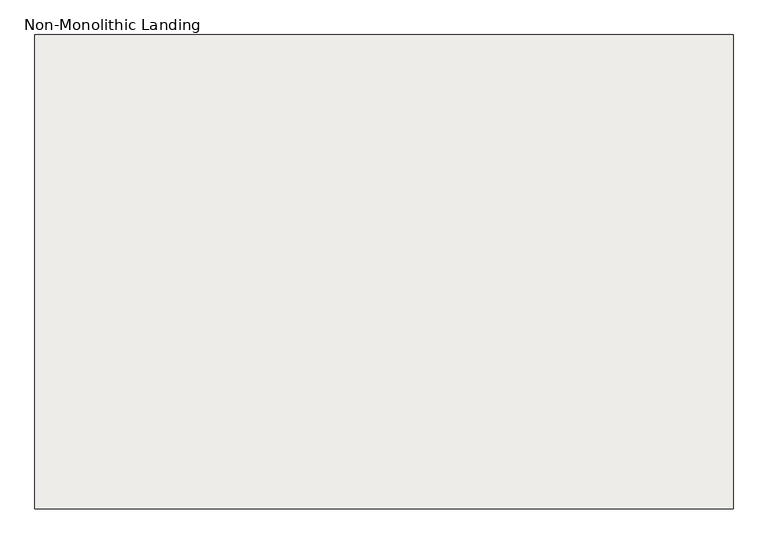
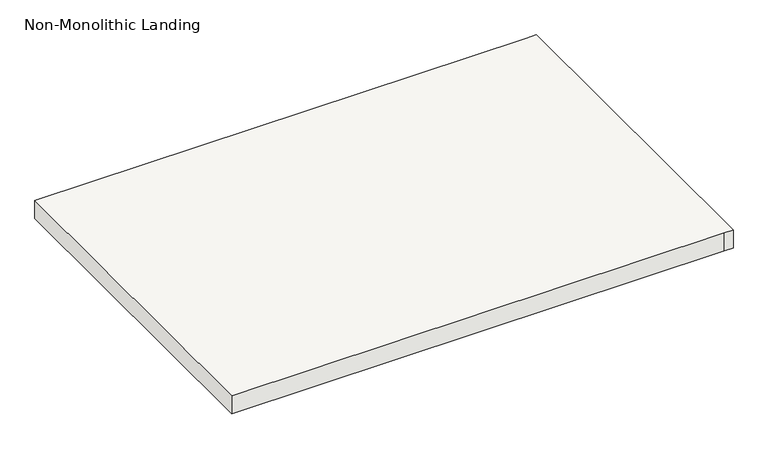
"""IFC4 building model written with IfcOpenShell, lengths in millimetres: slab geometry, Non-Monolithic Landing."""

from ifc_helpers import new_model, si_unit, frame, origin, place, context, project, spatial, polyline, outline, extrude, source, transform, mapped, element, save


def non_monolithic_landing_33fc1541(model_context):
    return source(origin(), model_context, "Body", "SweptSolid", [
        extrude(outline(polyline([(-47303.3385422, 7552.722839), (-45982.5385422, 7552.722839), (-45957.1385422, 7552.722839), (-45957.1385422, 6638.322839), (-45982.5385422, 6638.322839), (-47303.3385422, 6638.322839), (-47303.3385422, 7552.722839)])), frame((0.0, 0.0, 2126.3428571), z_axis=(0.0, 0.0, 1.0), x_axis=(1.0, 0.0, 0.0)), (0.0, 0.0, 1.0), 50.8),
    ])


if __name__ == "__main__":
    model = new_model("IFC4")
    model_context = context("Model", 3, world=origin())
    ifc_project = project(units=[si_unit("LENGTHUNIT", "METRE", prefix="MILLI")], contexts=[model_context])
    site = spatial("IfcSite", under=ifc_project)
    building = spatial("IfcBuilding", under=site)
    placement = place(None, origin())
    non_monolithic_landing_shape = non_monolithic_landing_33fc1541(model_context)
    element("IfcSlab", 1, ObjectType="Non-Monolithic Landing", at=placement, inside=building, context=model_context, shape_type="MappedRepresentation", body=[
        mapped(non_monolithic_landing_shape, transform((0.0, 0.0, 0.0), x_axis=(1.0, 0.0, 0.0), y_axis=(0.0, 1.0, 0.0), z_axis=(0.0, 0.0, 1.0))),
    ])
    save(model, "model.ifc")
